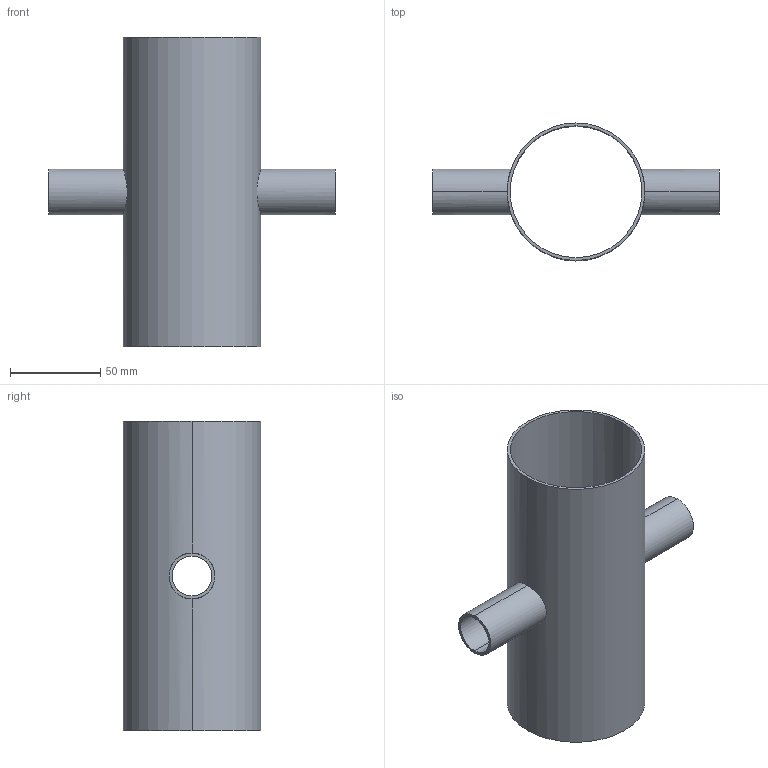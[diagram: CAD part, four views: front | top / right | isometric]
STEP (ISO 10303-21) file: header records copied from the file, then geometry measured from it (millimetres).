
FILE_DESCRIPTION (( 'STEP AP214' ), '1' );
FILE_NAME ('TE9RWWWW6L3.0x1.0-...STEP', '2016-05-22T04:22:31', ( 'eran' ), ( '' ), 'SwSTEP 2.0', 'SolidWorks 2016', '' );
FILE_SCHEMA (( 'AUTOMOTIVE_DESIGN' ));
Length unit declared in the file: millimetre
Products named in the file (1): TE9RWWWW6L3.0x1.0-..
Bounding box: 158.75 x 76.2 x 171.45 mm (x, y, z)
Volume: 75416.2 mm3; surface area: 92361.6 mm2
Topology: 1 solids, 1 shells, 16 faces, 40 edges, 24 vertices
Faces by surface type: cylinder 12, plane 4
Entity records: 882 total; most frequent: CARTESIAN_POINT 457, DIRECTION 82, ORIENTED_EDGE 80, EDGE_CURVE 40, AXIS2_PLACEMENT_3D 33, VERTEX_POINT 24, EDGE_LOOP 20, VECTOR 16
